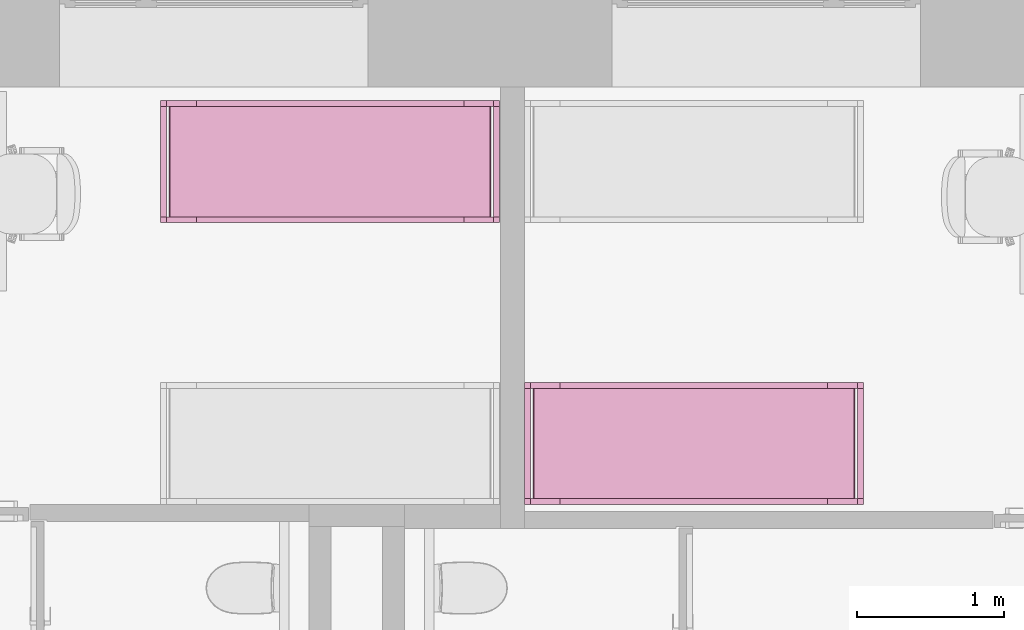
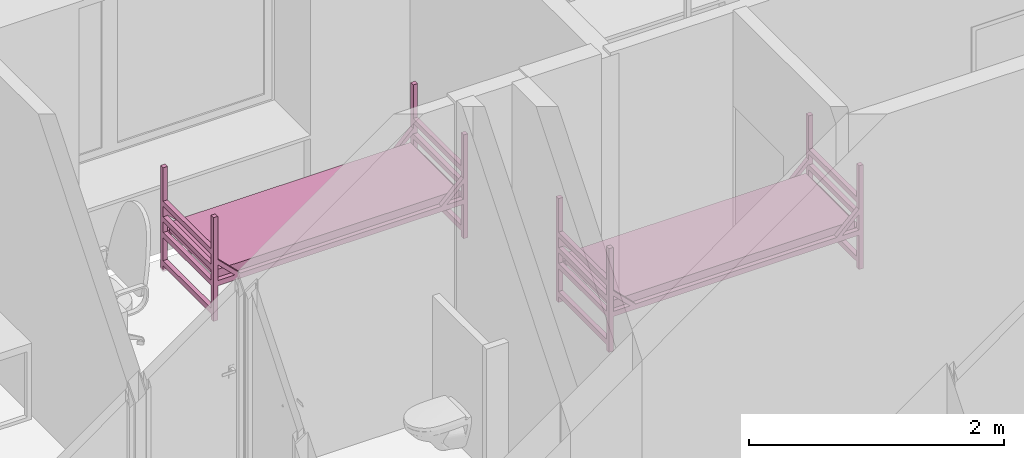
# One storey, part 39 of 48: 2 furnishings.
"""IFC2X3 building model written with IfcOpenShell, lengths in millimetres."""

from ifc_helpers import new_model, entity, si_unit, converted_unit, derived_unit, direction, frame, frame_2d, origin, origin_2d_with_axis, place, context, subcontext, project, spatial, polyline, circle_curve, parameter, trimmed, segment, composite_curve, rectangle, outline, extrude, source, transform, mapped, material, type_object, type_shapes, element, save


model = new_model("IFC2X3")

# Units and contexts
model_context = context("Model", 3, precision=0.01, world=origin(), true_north=direction((6.12303176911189e-17, 1.0)))
body_context = subcontext(model_context, "Body", "Model", "MODEL_VIEW")
ifc_project = project(units=[si_unit("LENGTHUNIT", "METRE", prefix="MILLI"), si_unit("AREAUNIT", "SQUARE_METRE"), si_unit("VOLUMEUNIT", "CUBIC_METRE"), converted_unit("PLANEANGLEUNIT", "DEGREE", entity("IfcRatioMeasure", 0.0174532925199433), si_unit("PLANEANGLEUNIT", "RADIAN"), dimensions=[0, 0, 0, 0, 0, 0, 0]), si_unit("MASSUNIT", "GRAM", prefix="KILO"), derived_unit("MASSDENSITYUNIT", [(si_unit("MASSUNIT", "GRAM", prefix="KILO"), 1), (si_unit("LENGTHUNIT", "METRE"), -3)]), si_unit("TIMEUNIT", "SECOND"), si_unit("FREQUENCYUNIT", "HERTZ"), si_unit("THERMODYNAMICTEMPERATUREUNIT", "DEGREE_CELSIUS"), derived_unit("THERMALTRANSMITTANCEUNIT", [(si_unit("MASSUNIT", "GRAM", prefix="KILO"), 1), (si_unit("THERMODYNAMICTEMPERATUREUNIT", "KELVIN"), -1), (si_unit("TIMEUNIT", "SECOND"), -3)]), derived_unit("VOLUMETRICFLOWRATEUNIT", [(si_unit("LENGTHUNIT", "METRE"), 3), (si_unit("TIMEUNIT", "SECOND"), -1)]), si_unit("ELECTRICCURRENTUNIT", "AMPERE"), si_unit("ELECTRICVOLTAGEUNIT", "VOLT"), si_unit("POWERUNIT", "WATT"), si_unit("FORCEUNIT", "NEWTON", prefix="KILO"), si_unit("ILLUMINANCEUNIT", "LUX"), si_unit("LUMINOUSFLUXUNIT", "LUMEN"), si_unit("LUMINOUSINTENSITYUNIT", "CANDELA"), derived_unit("USERDEFINED", [(si_unit("MASSUNIT", "GRAM", prefix="KILO"), -1), (si_unit("LENGTHUNIT", "METRE"), -2), (si_unit("TIMEUNIT", "SECOND"), 3), (si_unit("LUMINOUSFLUXUNIT", "LUMEN"), 1)]), derived_unit("LINEARVELOCITYUNIT", [(si_unit("LENGTHUNIT", "METRE"), 1), (si_unit("TIMEUNIT", "SECOND"), -1)]), si_unit("PRESSUREUNIT", "PASCAL"), derived_unit("USERDEFINED", [(si_unit("LENGTHUNIT", "METRE"), -2), (si_unit("MASSUNIT", "GRAM", prefix="KILO"), 1), (si_unit("TIMEUNIT", "SECOND"), -2)]), derived_unit("LINEARFORCEUNIT", [(si_unit("MASSUNIT", "GRAM", prefix="KILO"), 1), (si_unit("LENGTHUNIT", "METRE"), 1), (si_unit("TIMEUNIT", "SECOND"), -2), (si_unit("LENGTHUNIT", "METRE"), -1)]), derived_unit("PLANARFORCEUNIT", [(si_unit("MASSUNIT", "GRAM", prefix="KILO"), 1), (si_unit("LENGTHUNIT", "METRE"), 1), (si_unit("TIMEUNIT", "SECOND"), -2), (si_unit("LENGTHUNIT", "METRE"), -2)])], contexts=[model_context])

# Site, building, storey, space
site_placement = place(None, origin())
site = spatial("IfcSite", under=ifc_project, at=site_placement, Name="Default", CompositionType="ELEMENT")
building_placement = place(site_placement, origin())
building = spatial("IfcBuilding", under=site, at=building_placement, Name="SMA ARH", CompositionType="ELEMENT")
storey_placement = place(building_placement, frame((0.0, 0.0, 6600.0)))
storey = spatial("IfcBuildingStorey", under=building, at=storey_placement, Name="3 Korrus", CompositionType="ELEMENT", Elevation=6599.99999999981)
space_1_placement = place(storey_placement, origin())
space_1 = spatial("IfcSpace", under=storey, at=space_1_placement, Name="3-24", CompositionType="ELEMENT", InteriorOrExteriorSpace="INTERNAL")

# Furnishing
ifc_material = material(Name="Madrats")
furniture_type_1 = type_object("IfcFurnitureType", Name="Kasarmu voodi ühekordne 2308x830:Kasarmu voodi ühekordne 2308x830", material=ifc_material)
shared_shape_1 = source(origin(), body_context, "Body", "SweptSolid", [
    extrude(rectangle(XDim=39.9999999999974, YDim=750.000000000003, at=frame_2d((-1.35003119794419e-13, -2.8421709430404e-14), x_axis=(1.0, 0.0))), frame((1.68638457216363, -1226.7969571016, 55.0), z_axis=(0.0, 0.0, 1.0), x_axis=(0.0, -1.0, 0.0)), (0.0, 0.0, 1.0), 49.9999999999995),
    extrude(rectangle(XDim=39.9999999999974, YDim=750.000000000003, at=frame_2d((-1.35003119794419e-13, -2.8421709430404e-14), x_axis=(1.0, 0.0))), frame((1.68638457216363, -1226.7969571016, 325.0), z_axis=(0.0, 0.0, 1.0), x_axis=(0.0, -1.0, 0.0)), (0.0, 0.0, 1.0), 49.9999999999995),
    extrude(rectangle(XDim=39.9999999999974, YDim=750.000000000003, at=frame_2d((-1.35003119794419e-13, -2.8421709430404e-14), x_axis=(1.0, 0.0))), frame((1.68638457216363, -1226.7969571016, 475.0), z_axis=(0.0, 0.0, 1.0), x_axis=(0.0, -1.0, 0.0)), (0.0, 0.0, 1.0), 49.9999999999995),
    extrude(rectangle(XDim=39.9999999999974, YDim=750.000000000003, at=frame_2d((-1.35003119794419e-13, -2.8421709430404e-14), x_axis=(1.0, 0.0))), frame((1.68638457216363, -1226.7969571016, 625.0), z_axis=(0.0, 0.0, 1.0), x_axis=(0.0, -1.0, 0.0)), (0.0, 0.0, 1.0), 50.0000000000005),
    extrude(rectangle(XDim=39.9999999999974, YDim=750.000000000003, at=frame_2d((1.35003119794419e-13, -2.8421709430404e-14), x_axis=(1.0, 0.0))), frame((1.68638457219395, 1041.2030428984, 55.0), z_axis=(0.0, 0.0, 1.0), x_axis=(0.0, -1.0, 0.0)), (0.0, 0.0, 1.0), 50.0000000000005),
    extrude(rectangle(XDim=39.9999999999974, YDim=750.000000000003, at=frame_2d((1.35003119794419e-13, -2.8421709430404e-14), x_axis=(1.0, 0.0))), frame((1.68638457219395, 1041.2030428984, 325.0), z_axis=(0.0, 0.0, 1.0), x_axis=(0.0, -1.0, 0.0)), (0.0, 0.0, 1.0), 50.0000000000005),
    extrude(rectangle(XDim=39.9999999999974, YDim=750.000000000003, at=frame_2d((1.35003119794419e-13, -2.8421709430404e-14), x_axis=(1.0, 0.0))), frame((1.68638457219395, 1041.2030428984, 475.0), z_axis=(0.0, 0.0, 1.0), x_axis=(0.0, -1.0, 0.0)), (0.0, 0.0, 1.0), 50.0000000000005),
    extrude(rectangle(XDim=39.9999999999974, YDim=750.000000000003, at=frame_2d((1.35003119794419e-13, -2.8421709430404e-14), x_axis=(1.0, 0.0))), frame((1.68638457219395, 1041.2030428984, 625.0), z_axis=(0.0, 0.0, 1.0), x_axis=(0.0, -1.0, 0.0)), (0.0, 0.0, 1.0), 49.9999999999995),
    extrude(outline(composite_curve([segment(trimmed(circle_curve(frame_2d((1085.0, -40.0), x_axis=(1.0, 0.0)), 10.0), [parameter(270.0)], [parameter(0.0)], True, "PARAMETER"), True, "CONTINUOUS"), segment(polyline([(1095.0, -40.0), (1095.0, 40.0)]), True, "CONTINUOUS"), segment(trimmed(circle_curve(frame_2d((1085.0, 40.0), x_axis=(1.0, 0.0)), 10.0), [parameter(0.0)], [parameter(90.0000000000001)], True, "PARAMETER"), True, "CONTINUOUS"), segment(polyline([(1085.0, 50.0), (-1085.0, 50.0)]), True, "CONTINUOUS"), segment(trimmed(circle_curve(frame_2d((-1085.0, 40.0), x_axis=(1.0, 0.0)), 10.0), [parameter(90.0000000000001)], [parameter(180.0)], True, "PARAMETER"), True, "CONTINUOUS"), segment(polyline([(-1095.0, 40.0), (-1095.0, -40.0)]), True, "CONTINUOUS"), segment(trimmed(circle_curve(frame_2d((-1085.0, -40.0), x_axis=(1.0, 0.0)), 10.0), [parameter(180.0)], [parameter(270.0)], True, "PARAMETER"), True, "CONTINUOUS"), segment(polyline([(-1085.0, -50.0), (1085.0, -50.0)]), True, "CONTINUOUS")], self_intersect=False)), frame((-373.313615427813, -92.7969571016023, 405.0), z_axis=(1.0, 0.0, 0.0), x_axis=(0.0, -1.0, 0.0)), (0.0, 0.0, 1.0), 750.000000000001),
    extrude(outline(polyline([(-1114.0, -100.0), (1114.0, -100.0), (1114.0, -50.0), (961.59199141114, -50.0), (1114.0, 100.0), (1114.0, 150.0), (910.789321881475, -50.0), (-910.789321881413, -50.0), (-1114.0, 150.0), (-1114.0, 100.0), (-961.591991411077, -50.0), (-1114.0, -50.0), (-1114.0, -100.0)])), frame((-413.313615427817, -92.7969571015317, 430.0), z_axis=(1.0, 0.0, 0.0), x_axis=(0.0, 1.0, 0.0)), (0.0, 0.0, 1.0), 39.9999999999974),
    extrude(outline(polyline([(-1114.0, -100.0), (1114.0, -100.0), (1114.0, -50.0), (961.591991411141, -50.0), (1114.0, 100.0), (1114.0, 150.0), (910.789321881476, -50.0), (-910.789321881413, -50.0), (-1114.0, 150.0), (-1114.0, 100.0), (-961.591991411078, -50.0), (-1114.0, -50.0), (-1114.0, -100.0)])), frame((376.686384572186, -92.796957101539, 430.0), z_axis=(1.0, 0.0, 0.0), x_axis=(0.0, 1.0, 0.0)), (0.0, 0.0, 1.0), 39.9999999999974),
    extrude(rectangle(XDim=39.9999999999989, YDim=39.9999999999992, at=frame_2d((-6.75015598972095e-14, 0.0), x_axis=(1.0, 0.0))), frame((396.686384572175, -1226.79695710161, 0.0), z_axis=(0.0, 0.0, 1.0), x_axis=(0.0, 1.0, 0.0)), (0.0, 0.0, 1.0), 995.0),
    extrude(rectangle(XDim=39.9999999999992, YDim=39.9999999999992, at=frame_2d((-1.35003119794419e-13, 0.0), x_axis=(1.0, 0.0))), frame((396.686384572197, 1041.20304289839, 0.0), z_axis=(0.0, 0.0, 1.0), x_axis=(0.0, 1.0, 0.0)), (0.0, 0.0, 1.0), 995.0),
    extrude(rectangle(XDim=40.0000000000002, YDim=39.9999999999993, at=frame_2d((-1.35003119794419e-13, 0.0), x_axis=(1.0, 0.0))), frame((-393.313615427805, 1041.2030428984, 0.0), z_axis=(0.0, 0.0, 1.0), x_axis=(0.0, 1.0, 0.0)), (0.0, 0.0, 1.0), 995.0),
    extrude(rectangle(XDim=39.9999999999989, YDim=39.9999999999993, at=frame_2d((-6.75015598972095e-14, 0.0), x_axis=(1.0, 0.0))), frame((-393.313615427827, -1226.7969571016, 0.0), z_axis=(0.0, 0.0, 1.0), x_axis=(0.0, 1.0, 0.0)), (0.0, 0.0, 1.0), 995.0),
])
type_shapes(furniture_type_1, [shared_shape_1])
furnishing_1_placement = place(space_1_placement, frame((22138.2030428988, 11990.0, 0.0), z_axis=(0.0, 0.0, 1.0), x_axis=(0.0, 1.0, 0.0)))
element("IfcFurnishingElement", 1, at=furnishing_1_placement, inside=space_1, type_object=furniture_type_1, material=ifc_material, Name="Kasarmu voodi ühekordne 2308x830:Kasarmu voodi ühekordne 2308x830", ObjectType="Kasarmu voodi ühekordne 2308x830:Kasarmu voodi ühekordne 2308x830", context=body_context, shape_type="MappedRepresentation", body=[
    mapped(shared_shape_1, transform((0.0, 0.0, 0.0), scale=1.0)),
])

# Space
space_2_placement = place(storey_placement, origin())
space_2 = spatial("IfcSpace", under=storey, at=space_2_placement, Name="3-29", CompositionType="ELEMENT", InteriorOrExteriorSpace="INTERNAL")

# Furnishing
furniture_type_2 = type_object("IfcFurnitureType", Name="Kasarmu voodi ühekordne 2308x830:Kasarmu voodi ühekordne 2308x830", material=ifc_material)
shared_shape_2 = source(origin(), body_context, "Body", "SweptSolid", [
    extrude(rectangle(XDim=750.000000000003, YDim=39.9999999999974, at=frame_2d((0.0, 1.35003119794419e-13), x_axis=(1.0, 0.0))), frame((1.68638457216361, 1226.7969571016, 55.0)), (0.0, 0.0, 1.0), 49.9999999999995),
    extrude(rectangle(XDim=750.000000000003, YDim=39.9999999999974, at=frame_2d((0.0, 1.35003119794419e-13), x_axis=(1.0, 0.0))), frame((1.68638457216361, 1226.7969571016, 325.0)), (0.0, 0.0, 1.0), 49.9999999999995),
    extrude(rectangle(XDim=750.000000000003, YDim=39.9999999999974, at=frame_2d((0.0, 1.35003119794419e-13), x_axis=(1.0, 0.0))), frame((1.68638457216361, 1226.7969571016, 475.0)), (0.0, 0.0, 1.0), 49.9999999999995),
    extrude(rectangle(XDim=750.000000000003, YDim=39.9999999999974, at=frame_2d((0.0, 1.35003119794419e-13), x_axis=(1.0, 0.0))), frame((1.68638457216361, 1226.7969571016, 625.0)), (0.0, 0.0, 1.0), 50.0000000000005),
    extrude(rectangle(XDim=750.000000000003, YDim=39.9999999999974, at=origin_2d_with_axis()), frame((1.68638457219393, -1041.2030428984, 55.0)), (0.0, 0.0, 1.0), 50.0000000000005),
    extrude(rectangle(XDim=750.000000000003, YDim=39.9999999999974, at=origin_2d_with_axis()), frame((1.68638457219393, -1041.2030428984, 325.0)), (0.0, 0.0, 1.0), 50.0000000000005),
    extrude(rectangle(XDim=750.000000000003, YDim=39.9999999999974, at=origin_2d_with_axis()), frame((1.68638457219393, -1041.2030428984, 475.0)), (0.0, 0.0, 1.0), 50.0000000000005),
    extrude(rectangle(XDim=750.000000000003, YDim=39.9999999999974, at=origin_2d_with_axis()), frame((1.68638457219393, -1041.2030428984, 625.0)), (0.0, 0.0, 1.0), 49.9999999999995),
    extrude(outline(composite_curve([segment(polyline([(-1085.0, -50.0), (1085.0, -50.0)]), True, "CONTINUOUS"), segment(trimmed(circle_curve(frame_2d((1085.0, -40.0), x_axis=(-1.0, 0.0)), 10.0), [parameter(90.0000000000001)], [parameter(180.0)], True, "PARAMETER"), True, "CONTINUOUS"), segment(polyline([(1095.0, -40.0), (1095.0, 40.0)]), True, "CONTINUOUS"), segment(trimmed(circle_curve(frame_2d((1085.0, 40.0), x_axis=(-1.0, 0.0)), 10.0), [parameter(180.0)], [parameter(270.0)], True, "PARAMETER"), True, "CONTINUOUS"), segment(polyline([(1085.0, 50.0), (-1085.0, 50.0)]), True, "CONTINUOUS"), segment(trimmed(circle_curve(frame_2d((-1085.0, 40.0), x_axis=(-1.0, 0.0)), 10.0), [parameter(270.0)], [parameter(0.0)], True, "PARAMETER"), True, "CONTINUOUS"), segment(polyline([(-1095.0, 40.0), (-1095.0, -40.0)]), True, "CONTINUOUS"), segment(trimmed(circle_curve(frame_2d((-1085.0, -40.0), x_axis=(-1.0, 0.0)), 10.0), [parameter(0.0)], [parameter(90.0000000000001)], True, "PARAMETER"), True, "CONTINUOUS")], self_intersect=False)), frame((-373.313615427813, 92.7969571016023, 405.0), z_axis=(1.0, 0.0, 0.0), x_axis=(0.0, -1.0, 0.0)), (0.0, 0.0, 1.0), 750.000000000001),
    extrude(outline(polyline([(-100.0, -1114.0), (-50.0, -1114.0), (-50.0, -961.591991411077), (100.0, -1114.0), (150.0, -1114.0), (-50.0, -910.789321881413), (-50.0, 910.789321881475), (150.0, 1114.0), (100.0, 1114.0), (-50.0, 961.591991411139), (-50.0, 1114.0), (-100.0, 1114.0), (-100.0, -1114.0)])), frame((-413.313615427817, 92.7969571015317, 430.0), z_axis=(1.0, 0.0, 0.0), x_axis=(0.0, 0.0, 1.0)), (0.0, 0.0, 1.0), 39.9999999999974),
    extrude(outline(polyline([(-100.0, -1114.0), (-50.0, -1114.0), (-50.0, -961.591991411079), (100.0, -1114.0), (150.0, -1114.0), (-50.0, -910.789321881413), (-50.0, 910.789321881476), (150.0, 1114.0), (100.0, 1114.0), (-50.0, 961.591991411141), (-50.0, 1114.0), (-100.0, 1114.0), (-100.0, -1114.0)])), frame((376.686384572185, 92.796957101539, 430.0), z_axis=(1.0, 0.0, 0.0), x_axis=(0.0, 0.0, 1.0)), (0.0, 0.0, 1.0), 39.9999999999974),
    extrude(rectangle(XDim=39.9999999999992, YDim=39.9999999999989, at=frame_2d((0.0, -6.75015598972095e-14), x_axis=(1.0, 0.0))), frame((396.686384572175, 1226.79695710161, 0.0), z_axis=(0.0, 0.0, 1.0), x_axis=(-1.0, 0.0, 0.0)), (0.0, 0.0, 1.0), 995.0),
    extrude(rectangle(XDim=39.9999999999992, YDim=39.9999999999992, at=origin_2d_with_axis()), frame((396.686384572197, -1041.20304289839, 0.0), z_axis=(0.0, 0.0, 1.0), x_axis=(-1.0, 0.0, 0.0)), (0.0, 0.0, 1.0), 995.0),
    extrude(rectangle(XDim=39.9999999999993, YDim=40.0000000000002, at=origin_2d_with_axis()), frame((-393.313615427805, -1041.2030428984, 0.0), z_axis=(0.0, 0.0, 1.0), x_axis=(-1.0, 0.0, 0.0)), (0.0, 0.0, 1.0), 995.0),
    extrude(rectangle(XDim=39.9999999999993, YDim=39.9999999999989, at=frame_2d((0.0, -6.75015598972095e-14), x_axis=(1.0, 0.0))), frame((-393.313615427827, 1226.7969571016, 0.0), z_axis=(0.0, 0.0, 1.0), x_axis=(-1.0, 0.0, 0.0)), (0.0, 0.0, 1.0), 995.0),
])
type_shapes(furniture_type_2, [shared_shape_2])
furnishing_2_placement = place(space_2_placement, frame((24800.7969571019, 10071.3136154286, 0.0), z_axis=(0.0, 0.0, 1.0), x_axis=(0.0, 1.0, 0.0)))
element("IfcFurnishingElement", 2, at=furnishing_2_placement, inside=space_2, type_object=furniture_type_2, material=ifc_material, Name="Kasarmu voodi ühekordne 2308x830:Kasarmu voodi ühekordne 2308x830", ObjectType="Kasarmu voodi ühekordne 2308x830:Kasarmu voodi ühekordne 2308x830", context=body_context, shape_type="MappedRepresentation", body=[
    mapped(shared_shape_2, transform((0.0, 0.0, 0.0), scale=1.0)),
])

save(model, "model.ifc")
